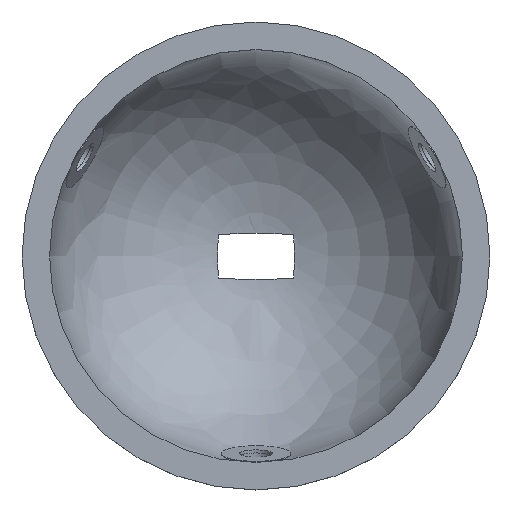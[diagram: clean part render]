
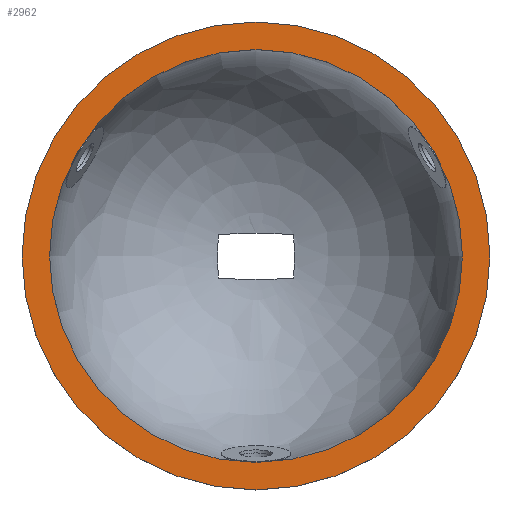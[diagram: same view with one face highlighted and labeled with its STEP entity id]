
A CAD part, top view. The second image highlights one B-rep face of the part: STEP entity #2962.
In plain terms, the highlighted planar face has unit normal (0, 0, 1).
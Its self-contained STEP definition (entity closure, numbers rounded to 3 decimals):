
#641 = CYLINDRICAL_SURFACE('',#642,22.5);
#642 = AXIS2_PLACEMENT_3D('',#643,#644,#645);
#643 = CARTESIAN_POINT('',(0.,0.,-4.));
#644 = DIRECTION('',(0.,0.,1.));
#645 = DIRECTION('',(1.,0.,-0.));
#2277 = VERTEX_POINT('',#2278);
#2278 = CARTESIAN_POINT('',(22.5,0.,0.));
#2299 = EDGE_CURVE('',#2277,#2277,#2300,.T.);
#2300 = SURFACE_CURVE('',#2301,(#2306,#2313),.PCURVE_S1.);
#2301 = CIRCLE('',#2302,22.5);
#2302 = AXIS2_PLACEMENT_3D('',#2303,#2304,#2305);
#2303 = CARTESIAN_POINT('',(0.,0.,0.));
#2304 = DIRECTION('',(0.,0.,1.));
#2305 = DIRECTION('',(1.,0.,-0.));
#2306 = PCURVE('',#641,#2307);
#2307 = DEFINITIONAL_REPRESENTATION('',(#2308),#2312);
#2308 = LINE('',#2309,#2310);
#2309 = CARTESIAN_POINT('',(0.,4.));
#2310 = VECTOR('',#2311,1.);
#2311 = DIRECTION('',(1.,0.));
#2312 = ( GEOMETRIC_REPRESENTATION_CONTEXT(2) 
PARAMETRIC_REPRESENTATION_CONTEXT() REPRESENTATION_CONTEXT('2D SPACE',''
  ) );
#2313 = PCURVE('',#2314,#2319);
#2314 = PLANE('',#2315);
#2315 = AXIS2_PLACEMENT_3D('',#2316,#2317,#2318);
#2316 = CARTESIAN_POINT('',(0.,0.,0.));
#2317 = DIRECTION('',(0.,0.,1.));
#2318 = DIRECTION('',(1.,0.,-0.));
#2319 = DEFINITIONAL_REPRESENTATION('',(#2320),#2324);
#2320 = CIRCLE('',#2321,22.5);
#2321 = AXIS2_PLACEMENT_2D('',#2322,#2323);
#2322 = CARTESIAN_POINT('',(0.,0.));
#2323 = DIRECTION('',(1.,-0.));
#2324 = ( GEOMETRIC_REPRESENTATION_CONTEXT(2) 
PARAMETRIC_REPRESENTATION_CONTEXT() REPRESENTATION_CONTEXT('2D SPACE',''
  ) );
#2962 = ADVANCED_FACE('',(#2963,#2966),#2314,.T.);
#2963 = FACE_BOUND('',#2964,.F.);
#2964 = EDGE_LOOP('',(#2965));
#2965 = ORIENTED_EDGE('',*,*,#2299,.T.);
#2966 = FACE_BOUND('',#2967,.F.);
#2967 = EDGE_LOOP('',(#2968));
#2968 = ORIENTED_EDGE('',*,*,#2969,.F.);
#2969 = EDGE_CURVE('',#2970,#2970,#2972,.T.);
#2970 = VERTEX_POINT('',#2971);
#2971 = CARTESIAN_POINT('',(25.5,0.,0.));
#2972 = SURFACE_CURVE('',#2973,(#2978,#2985),.PCURVE_S1.);
#2973 = CIRCLE('',#2974,25.5);
#2974 = AXIS2_PLACEMENT_3D('',#2975,#2976,#2977);
#2975 = CARTESIAN_POINT('',(0.,0.,0.));
#2976 = DIRECTION('',(0.,0.,1.));
#2977 = DIRECTION('',(1.,0.,-0.));
#2978 = PCURVE('',#2314,#2979);
#2979 = DEFINITIONAL_REPRESENTATION('',(#2980),#2984);
#2980 = CIRCLE('',#2981,25.5);
#2981 = AXIS2_PLACEMENT_2D('',#2982,#2983);
#2982 = CARTESIAN_POINT('',(0.,0.));
#2983 = DIRECTION('',(1.,-0.));
#2984 = ( GEOMETRIC_REPRESENTATION_CONTEXT(2) 
PARAMETRIC_REPRESENTATION_CONTEXT() REPRESENTATION_CONTEXT('2D SPACE',''
  ) );
#2985 = PCURVE('',#2986,#2991);
#2986 = CYLINDRICAL_SURFACE('',#2987,25.5);
#2987 = AXIS2_PLACEMENT_3D('',#2988,#2989,#2990);
#2988 = CARTESIAN_POINT('',(0.,0.,0.));
#2989 = DIRECTION('',(-0.,-0.,-1.));
#2990 = DIRECTION('',(1.,0.,0.));
#2991 = DEFINITIONAL_REPRESENTATION('',(#2992),#2996);
#2992 = LINE('',#2993,#2994);
#2993 = CARTESIAN_POINT('',(-0.,0.));
#2994 = VECTOR('',#2995,1.);
#2995 = DIRECTION('',(-1.,0.));
#2996 = ( GEOMETRIC_REPRESENTATION_CONTEXT(2) 
PARAMETRIC_REPRESENTATION_CONTEXT() REPRESENTATION_CONTEXT('2D SPACE',''
  ) );
